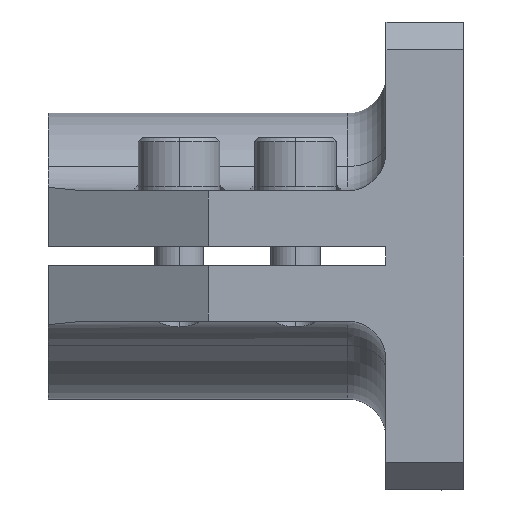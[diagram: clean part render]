
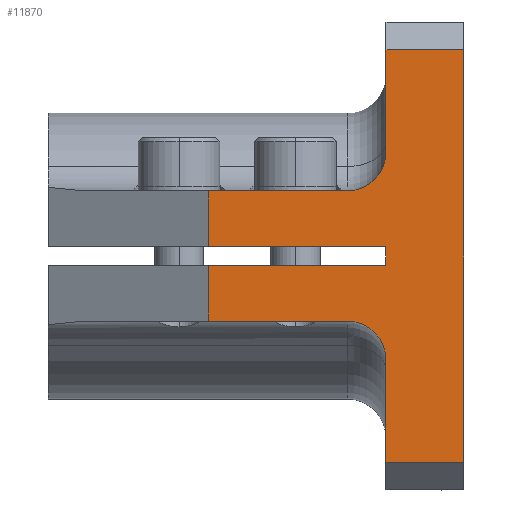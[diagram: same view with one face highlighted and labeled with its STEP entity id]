
A CAD part, left-side view. The second image highlights one B-rep face of the part: STEP entity #11870.
In plain terms, the highlighted planar face has unit normal (-1, 0, 0).
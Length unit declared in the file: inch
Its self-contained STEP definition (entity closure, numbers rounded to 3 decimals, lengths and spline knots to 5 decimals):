
#1 = ORIENTED_EDGE ( 'NONE', *, *, #16134, .F. ) ;
#2 = ORIENTED_EDGE ( 'NONE', *, *, #16118, .T. ) ;
#3 = ORIENTED_EDGE ( 'NONE', *, *, #16117, .T. ) ;
#4 = ORIENTED_EDGE ( 'NONE', *, *, #16116, .T. ) ;
#5 = ORIENTED_EDGE ( 'NONE', *, *, #16139, .F. ) ;
#6 = ORIENTED_EDGE ( 'NONE', *, *, #16115, .T. ) ;
#7 = ORIENTED_EDGE ( 'NONE', *, *, #16190, .F. ) ;
#8 = ORIENTED_EDGE ( 'NONE', *, *, #16114, .T. ) ;
#9 = ORIENTED_EDGE ( 'NONE', *, *, #16113, .T. ) ;
#10 = ORIENTED_EDGE ( 'NONE', *, *, #16112, .T. ) ;
#11 = ORIENTED_EDGE ( 'NONE', *, *, #16170, .T. ) ;
#12 = ORIENTED_EDGE ( 'NONE', *, *, #16149, .T. ) ;
#13 = ORIENTED_EDGE ( 'NONE', *, *, #16111, .T. ) ;
#14 = ORIENTED_EDGE ( 'NONE', *, *, #16110, .T. ) ;
#4710 = VERTEX_POINT ( 'NONE', #20121 ) ;
#4712 = VERTEX_POINT ( 'NONE', #20123 ) ;
#4720 = VERTEX_POINT ( 'NONE', #20131 ) ;
#4721 = VERTEX_POINT ( 'NONE', #20132 ) ;
#5724 = CARTESIAN_POINT ( 'NONE',  ( -1.125, 0.562, -0.313 ) ) ;
#5737 = CARTESIAN_POINT ( 'NONE',  ( -1.125, 0.375, 0.045 ) ) ;
#5750 = CARTESIAN_POINT ( 'NONE',  ( -1.125, 1.229, 0.045 ) ) ;
#5797 = CARTESIAN_POINT ( 'NONE',  ( -1.125, 0., 0.992 ) ) ;
#5844 = CARTESIAN_POINT ( 'NONE',  ( -1.125, 0., -0.992 ) ) ;
#5881 = CARTESIAN_POINT ( 'NONE',  ( -1.125, 0.375, -0.5 ) ) ;
#5885 = CARTESIAN_POINT ( 'NONE',  ( -1.125, 0.375, -0.992 ) ) ;
#5890 = CARTESIAN_POINT ( 'NONE',  ( -1.125, 0.375, 0.992 ) ) ;
#5895 = CARTESIAN_POINT ( 'NONE',  ( -1.125, 0.375, 0.5 ) ) ;
#7857 = AXIS2_PLACEMENT_3D ( 'NONE', #18322, #18323, #18324 ) ;
#7899 = AXIS2_PLACEMENT_3D ( 'NONE', #9452, #9453, #9454 ) ;
#7900 = AXIS2_PLACEMENT_3D ( 'NONE', #9463, #9464, #9465 ) ;
#9033 = FACE_OUTER_BOUND ( 'NONE', #16352, .T. ) ;
#9203 = LINE ( 'NONE', #9455, #9205 ) ;
#9204 = CIRCLE ( 'NONE', #7899, 0.187 ) ;
#9205 = VECTOR ( 'NONE', #9456, 39.37008 ) ;
#9206 = LINE ( 'NONE', #9457, #9207 ) ;
#9207 = VECTOR ( 'NONE', #9458, 39.37008 ) ;
#9208 = LINE ( 'NONE', #9459, #9209 ) ;
#9209 = VECTOR ( 'NONE', #9460, 39.37008 ) ;
#9210 = LINE ( 'NONE', #9461, #9211 ) ;
#9211 = VECTOR ( 'NONE', #9462, 39.37008 ) ;
#9212 = LINE ( 'NONE', #9466, #9214 ) ;
#9213 = CIRCLE ( 'NONE', #7900, 0.187 ) ;
#9214 = VECTOR ( 'NONE', #9467, 39.37008 ) ;
#9215 = LINE ( 'NONE', #9468, #9216 ) ;
#9216 = VECTOR ( 'NONE', #9469, 39.37008 ) ;
#9217 = LINE ( 'NONE', #9470, #9218 ) ;
#9218 = VECTOR ( 'NONE', #9471, 39.37008 ) ;
#9244 = LINE ( 'NONE', #9507, #9245 ) ;
#9245 = VECTOR ( 'NONE', #9508, 39.37008 ) ;
#9252 = LINE ( 'NONE', #9519, #9253 ) ;
#9253 = VECTOR ( 'NONE', #9520, 39.37008 ) ;
#9266 = LINE ( 'NONE', #9544, #9268 ) ;
#9268 = VECTOR ( 'NONE', #9545, 39.37008 ) ;
#9452 = CARTESIAN_POINT ( 'NONE',  ( -1.125, 0.562, -0.5 ) ) ;
#9453 = DIRECTION ( 'NONE',  ( 1., 0., 0. ) ) ;
#9454 = DIRECTION ( 'NONE',  ( 0., 0., -1. ) ) ;
#9455 = CARTESIAN_POINT ( 'NONE',  ( -1.125, 2., -0.313 ) ) ;
#9456 = DIRECTION ( 'NONE',  ( 0., -1., 0. ) ) ;
#9457 = CARTESIAN_POINT ( 'NONE',  ( -1.125, 0.375, 1.125 ) ) ;
#9458 = DIRECTION ( 'NONE',  ( 0., 0., -1. ) ) ;
#9459 = CARTESIAN_POINT ( 'NONE',  ( -1.125, 0.375, 0.045 ) ) ;
#9460 = DIRECTION ( 'NONE',  ( 0., -1., 0. ) ) ;
#9461 = CARTESIAN_POINT ( 'NONE',  ( -1.125, 1.229, -0.313 ) ) ;
#9462 = DIRECTION ( 'NONE',  ( 0., 0., -1. ) ) ;
#9463 = CARTESIAN_POINT ( 'NONE',  ( -1.125, 0.562, 0.5 ) ) ;
#9464 = DIRECTION ( 'NONE',  ( 1., 0., 0. ) ) ;
#9465 = DIRECTION ( 'NONE',  ( 0., 0., -1. ) ) ;
#9466 = CARTESIAN_POINT ( 'NONE',  ( -1.125, 0.375, 0.992 ) ) ;
#9467 = DIRECTION ( 'NONE',  ( 0., 1., 0. ) ) ;
#9468 = CARTESIAN_POINT ( 'NONE',  ( -1.125, 0., 1.125 ) ) ;
#9469 = DIRECTION ( 'NONE',  ( 0., 0., 1. ) ) ;
#9470 = CARTESIAN_POINT ( 'NONE',  ( -1.125, 0.375, -0.992 ) ) ;
#9471 = DIRECTION ( 'NONE',  ( 0., -1., 0. ) ) ;
#9507 = CARTESIAN_POINT ( 'NONE',  ( -1.125, 0.375, 1.125 ) ) ;
#9508 = DIRECTION ( 'NONE',  ( 0., 0., 1. ) ) ;
#9519 = CARTESIAN_POINT ( 'NONE',  ( -1.125, 0.375, 1.125 ) ) ;
#9520 = DIRECTION ( 'NONE',  ( 0., 0., 1. ) ) ;
#9544 = CARTESIAN_POINT ( 'NONE',  ( -1.125, 1.229, -0.313 ) ) ;
#9545 = DIRECTION ( 'NONE',  ( 0., 0., -1. ) ) ;
#9597 = CARTESIAN_POINT ( 'NONE',  ( -1.125, 0.375, -0.045 ) ) ;
#9598 = DIRECTION ( 'NONE',  ( 0., 1., 0. ) ) ;
#9682 = CARTESIAN_POINT ( 'NONE',  ( -1.125, 2., 0.313 ) ) ;
#9683 = DIRECTION ( 'NONE',  ( 0., -1., 0. ) ) ;
#9916 = LINE ( 'NONE', #9597, #9918 ) ;
#9918 = VECTOR ( 'NONE', #9598, 39.37008 ) ;
#9944 = LINE ( 'NONE', #9682, #9945 ) ;
#9945 = VECTOR ( 'NONE', #9683, 39.37008 ) ;
#10655 = CARTESIAN_POINT ( 'NONE',  ( -1.125, 1.229, -0.313 ) ) ;
#11870 = ADVANCED_FACE ( 'NONE', ( #9033 ), #18321, .F. ) ;
#16110 = EDGE_CURVE ( 'NONE', #19587, #19748, #9204, .T. ) ;
#16111 = EDGE_CURVE ( 'NONE', #17821, #19587, #9203, .T. ) ;
#16112 = EDGE_CURVE ( 'NONE', #19601, #4712, #9206, .T. ) ;
#16113 = EDGE_CURVE ( 'NONE', #19615, #19601, #9208, .T. ) ;
#16114 = EDGE_CURVE ( 'NONE', #4721, #19615, #9210, .T. ) ;
#16115 = EDGE_CURVE ( 'NONE', #19762, #4720, #9213, .T. ) ;
#16116 = EDGE_CURVE ( 'NONE', #19663, #19757, #9212, .T. ) ;
#16117 = EDGE_CURVE ( 'NONE', #19711, #19663, #9215, .T. ) ;
#16118 = EDGE_CURVE ( 'NONE', #19752, #19711, #9217, .T. ) ;
#16134 = EDGE_CURVE ( 'NONE', #19752, #19748, #9244, .T. ) ;
#16139 = EDGE_CURVE ( 'NONE', #19762, #19757, #9252, .T. ) ;
#16149 = EDGE_CURVE ( 'NONE', #4710, #17821, #9266, .T. ) ;
#16170 = EDGE_CURVE ( 'NONE', #4712, #4710, #9916, .T. ) ;
#16190 = EDGE_CURVE ( 'NONE', #4721, #4720, #9944, .T. ) ;
#16352 = EDGE_LOOP ( 'NONE', ( #1, #2, #3, #4, #5, #6, #7, #8, #9, #10, #11, #12, #13, #14 ) ) ;
#17821 = VERTEX_POINT ( 'NONE', #10655 ) ;
#18321 = PLANE ( 'NONE',  #7857 ) ;
#18322 = CARTESIAN_POINT ( 'NONE',  ( -1.125, 0.375, 1.125 ) ) ;
#18323 = DIRECTION ( 'NONE',  ( 1., 0., 0. ) ) ;
#18324 = DIRECTION ( 'NONE',  ( 0., 0., -1. ) ) ;
#19587 = VERTEX_POINT ( 'NONE', #5724 ) ;
#19601 = VERTEX_POINT ( 'NONE', #5737 ) ;
#19615 = VERTEX_POINT ( 'NONE', #5750 ) ;
#19663 = VERTEX_POINT ( 'NONE', #5797 ) ;
#19711 = VERTEX_POINT ( 'NONE', #5844 ) ;
#19748 = VERTEX_POINT ( 'NONE', #5881 ) ;
#19752 = VERTEX_POINT ( 'NONE', #5885 ) ;
#19757 = VERTEX_POINT ( 'NONE', #5890 ) ;
#19762 = VERTEX_POINT ( 'NONE', #5895 ) ;
#20121 = CARTESIAN_POINT ( 'NONE',  ( -1.125, 1.229, -0.045 ) ) ;
#20123 = CARTESIAN_POINT ( 'NONE',  ( -1.125, 0.375, -0.045 ) ) ;
#20131 = CARTESIAN_POINT ( 'NONE',  ( -1.125, 0.562, 0.313 ) ) ;
#20132 = CARTESIAN_POINT ( 'NONE',  ( -1.125, 1.229, 0.313 ) ) ;
